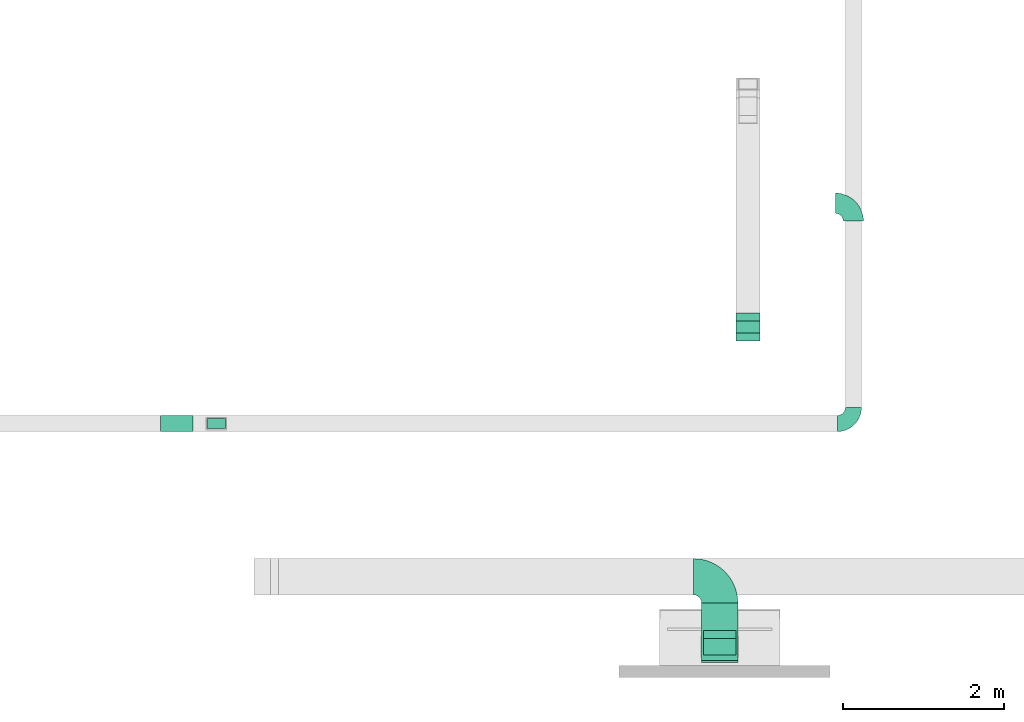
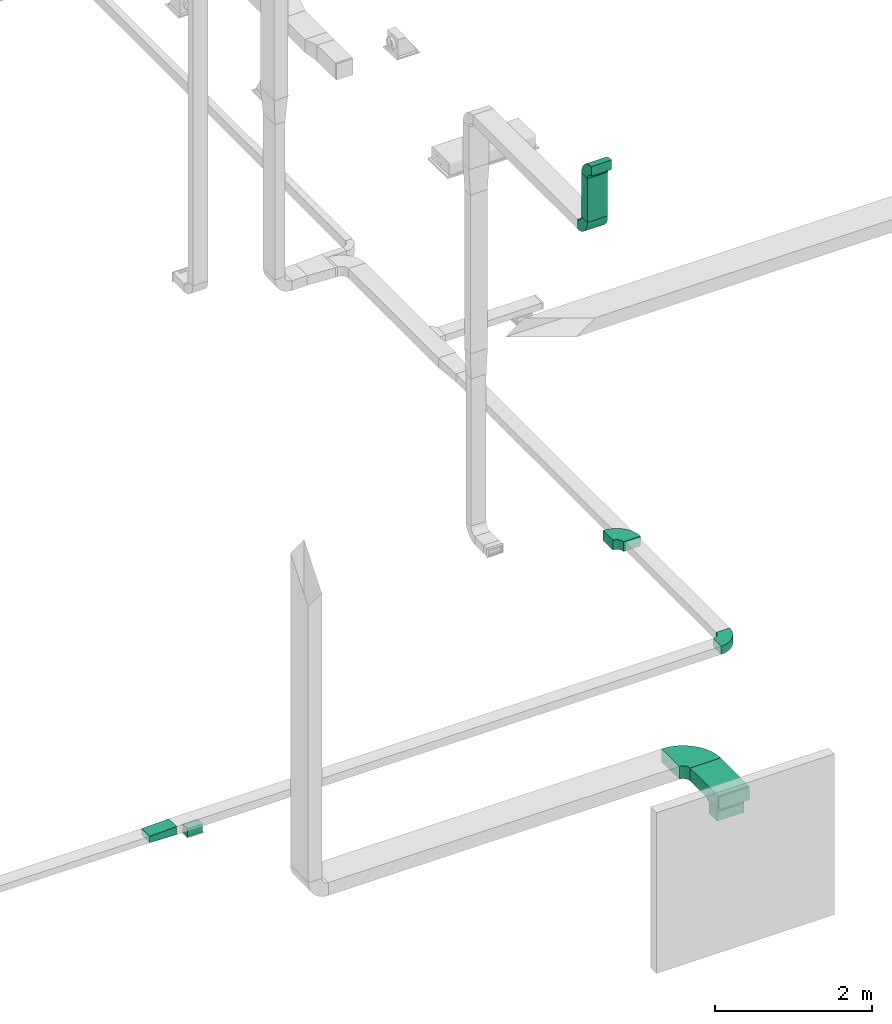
# One storey, part 5 of 22: 9 flow fittings, 4 flow segments.
"""IFC2X3 building model written with IfcOpenShell, lengths in millimetres."""

from ifc_helpers import new_model, entity, si_unit, converted_unit, derived_unit, direction, frame, frame_2d, origin, origin_2d_with_axis, place, context, subcontext, project, spatial, polyline, circle_curve, parameter, trimmed, segment, composite_curve, rectangle, outline, extrude, source, transform, mapped, material, type_object, type_shapes, element, save


model = new_model("IFC2X3")

# Units and contexts
model_context = context("Model", 3, precision=0.01, world=origin(), true_north=direction((6.123233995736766e-17, 1.0)))
body_context = subcontext(model_context, "Body", "Model", "MODEL_VIEW")
ifc_project = project(units=[si_unit("LENGTHUNIT", "METRE", prefix="MILLI"), converted_unit("PLANEANGLEUNIT", "DEGREE", entity("IfcPlaneAngleMeasure", 0.017453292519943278), si_unit("PLANEANGLEUNIT", "RADIAN"), dimensions=[0, 0, 0, 0, 0, 0, 0]), si_unit("AREAUNIT", "SQUARE_METRE"), derived_unit("THERMALTRANSMITTANCEUNIT", [(si_unit("MASSUNIT", "GRAM", prefix="KILO"), 1), (si_unit("THERMODYNAMICTEMPERATUREUNIT", "KELVIN"), -1), (si_unit("TIMEUNIT", "SECOND"), -3)])], contexts=[model_context])

# Site, building, storey
site_placement = place(None, origin())
site = spatial("IfcSite", under=ifc_project, at=site_placement, Name="Default", CompositionType="ELEMENT")
building_placement = place(site_placement, origin())
building = spatial("IfcBuilding", under=site, at=building_placement, Name="Praça Pedro II, 1301 - Centro (Sul), Teresina - PI, 64001-100", CompositionType="ELEMENT")
storey_placement = place(building_placement, frame((0.0, 0.0, 320.0)))
storey = spatial("IfcBuildingStorey", under=building, at=storey_placement, Name="TÉRREO +0.32m", CompositionType="ELEMENT", Elevation=319.99999999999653)

# Flow segments
duct_segment_type = type_object("IfcDuctSegmentType", Name="Duto retangular:Raios cotovelos / torneiras", PredefinedType="NOTDEFINED")
flow_segment_1_placement = place(storey_placement, origin())
element("IfcFlowSegment", 1, at=flow_segment_1_placement, inside=storey, type_object=duct_segment_type, Name="Duto retangular:Raios cotovelos / torneiras", ObjectType="Duto retangular:Raios cotovelos / torneiras", context=body_context, shape_type="SweptSolid", body=[
    extrude(rectangle(XDim=150.00000000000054, YDim=300.0000000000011, at=origin_2d_with_axis()), frame((34186.88553093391, -67588.11640775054, 8578.943296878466), z_axis=(0.0, 0.0, 1.0), x_axis=(0.0, 1.0, 0.0)), (0.0, 0.0, 1.0), 681.0567031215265),
])
flow_segment_2_placement = place(storey_placement, origin())
element("IfcFlowSegment", 2, at=flow_segment_2_placement, inside=storey, type_object=duct_segment_type, Name="Duto retangular:Raios cotovelos / torneiras", ObjectType="Duto retangular:Raios cotovelos / torneiras", context=body_context, shape_type="SweptSolid", body=[
    extrude(rectangle(XDim=125.00000000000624, YDim=225.00000000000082, at=origin_2d_with_axis()), frame((27578.81462838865, -68787.15918292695, 2040.0), z_axis=(0.0, 0.0, 1.0), x_axis=(0.0, 1.0, 0.0)), (0.0, 0.0, 1.0), 121.50000000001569),
])
flow_segment_3_placement = place(storey_placement, origin())
element("IfcFlowSegment", 3, at=flow_segment_3_placement, inside=storey, type_object=duct_segment_type, Name="Duto retangular:Raios cotovelos / torneiras", ObjectType="Duto retangular:Raios cotovelos / torneiras", context=body_context, shape_type="SweptSolid", body=[
    extrude(rectangle(XDim=400.0000000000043, YDim=200.0000000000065, at=frame_2d((-4.334310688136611e-12, 8.668621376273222e-12), x_axis=(1.0, 0.0))), frame((33836.81288258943, -71561.28932437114, 1829.7982312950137), z_axis=(0.0, 0.0, 1.0), x_axis=(-1.0, 0.0, 0.0)), (0.0, 0.0, 1.0), 145.20176870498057),
])
flow_segment_4_placement = place(storey_placement, origin())
element("IfcFlowSegment", 4, at=flow_segment_4_placement, inside=storey, type_object=duct_segment_type, Name="Duto retangular:Raios cotovelos / torneiras", ObjectType="Duto retangular:Raios cotovelos / torneiras", context=body_context, shape_type="SweptSolid", body=[
    extrude(rectangle(XDim=716.7235298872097, YDim=450.00000000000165, at=frame_2d((-8.668621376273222e-12, 0.0), x_axis=(1.0, 0.0))), frame((33836.81288258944, -71374.6510893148, 2075.0), z_axis=(0.0, 0.0, 1.0), x_axis=(0.0, -1.0, 0.0)), (0.0, 0.0, 1.0), 200.0),
])

# Flow fittings
ifc_material = material(Name="<Unnamed>")
duct_fitting_type_1 = type_object("IfcDuctFittingType", Name="M_Rectangular Tap - Beveled:Standard", PredefinedType="NOTDEFINED", material=ifc_material)
shared_shape_1 = source(origin(), body_context, "Body", "SweptSolid", [
    extrude(outline(polyline([(-3.038399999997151, -135.39999999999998), (4.057600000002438, -135.39999999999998), (4.057600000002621, 90.59999999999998), (-2.038399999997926, 90.59999999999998), (-3.0383999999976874, 89.60000000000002), (-3.038399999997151, -135.39999999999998)])), frame((-2.0383999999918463, -22.90000000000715, -62.499999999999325), z_axis=(0.0, 0.0, 1.0), x_axis=(-1.0, 0.0, 0.0)), (0.0, 0.0, 1.0), 124.99999999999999),
])
type_shapes(duct_fitting_type_1, [shared_shape_1])
flow_fitting_1_placement = place(storey_placement, frame((27578.814628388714, -68787.15918292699, 2162.5000000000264), z_axis=(0.0, 1.0, 0.0), x_axis=(0.0, 0.0, -1.0)))
element("IfcFlowFitting", 5, at=flow_fitting_1_placement, inside=storey, type_object=duct_fitting_type_1, material=ifc_material, Name="M_Rectangular Tap - Beveled:Standard", ObjectType="M_Rectangular Tap - Beveled:Standard", context=body_context, shape_type="MappedRepresentation", body=[
    mapped(shared_shape_1, transform((0.0, 0.0, 0.0), scale=1.0)),
])
duct_fitting_type_2 = type_object("IfcDuctFittingType", Name="BTS vanes:1 Splitter Vanes", PredefinedType="NOTDEFINED", material=ifc_material)
shared_shape_2 = source(origin(), body_context, "Body", "SweptSolid", [
    extrude(outline(composite_curve([segment(polyline([(-162.5, -87.49999999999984), (-12.499999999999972, -87.49999999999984)]), True, "CONTINUOUS"), segment(trimmed(circle_curve(frame_2d((87.50000000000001, -87.49999999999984), x_axis=(0.0, 1.0)), 99.99999999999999), [parameter(0.0)], [parameter(90.00000000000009)], True, "PARAMETER"), False, "CONTINUOUS"), segment(polyline([(87.50000000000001, 12.500000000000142), (87.50000000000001, 162.50000000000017)]), True, "CONTINUOUS"), segment(trimmed(circle_curve(frame_2d((87.50000000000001, -87.49999999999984), x_axis=(0.0, 1.0)), 250.00000000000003), [parameter(0.0)], [parameter(90.00000000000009)], True, "PARAMETER"), True, "CONTINUOUS")], self_intersect=False)), frame((-87.4999999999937, 87.49999999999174, -150.0), z_axis=(0.0, 0.0, 1.0), x_axis=(-1.0, 0.0, 0.0)), (0.0, 0.0, 1.0), 300.0),
    extrude(outline(composite_curve([segment(polyline([(-77.63157894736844, -59.21052631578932), (-40.789473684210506, -59.21052631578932)]), True, "CONTINUOUS"), segment(trimmed(circle_curve(frame_2d((59.210526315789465, -59.21052631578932), x_axis=(0.0, 1.0)), 99.99999999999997), [parameter(0.0)], [parameter(90.00000000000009)], True, "PARAMETER"), False, "CONTINUOUS"), segment(polyline([(59.210526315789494, 40.78947368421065), (59.210526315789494, 77.63157894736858)]), True, "CONTINUOUS"), segment(trimmed(circle_curve(frame_2d((59.210526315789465, -59.21052631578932), x_axis=(0.0, 1.0)), 136.8421052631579), [parameter(0.0)], [parameter(90.00000000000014)], True, "PARAMETER"), True, "CONTINUOUS")], self_intersect=False)), frame((-115.78947368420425, 115.78947368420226, -150.0), z_axis=(0.0, 0.0, 1.0), x_axis=(-1.0, 0.0, 0.0)), (0.0, 0.0, 1.0), 300.0),
])
type_shapes(duct_fitting_type_2, [shared_shape_2])
for number, where, z_axis, x_axis, name in (
    (6, (34186.88553093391, -67588.11640775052, 8403.943296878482), (-1.0, 0.0, 0.0), (0.0, -1.0, 0.0), "BTS vanes:1 Splitter Vanes"),
    (7, (34186.88553093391, -67588.11640775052, 9435.0), (1.0, 0.0, 0.0), (0.0, 0.0, 1.0), "BTS vanes:1 Splitter Vanes"),
):
    element("IfcFlowFitting", number, at=place(storey_placement, frame(where, z_axis=z_axis, x_axis=x_axis)), inside=storey, type_object=duct_fitting_type_2, material=ifc_material, Name=name, ObjectType="BTS vanes:1 Splitter Vanes", context=body_context, shape_type="MappedRepresentation", body=[
        mapped(shared_shape_2, transform((0.0, 0.0, 0.0), scale=1.0)),
    ])
duct_fitting_type_3 = type_object("IfcDuctFittingType", Name="M_Rectangular Transition - L:400 mm (L)", PredefinedType="NOTDEFINED", material=ifc_material)
shared_shape_3 = source(origin(), body_context, "Body", "SweptSolid", [
    extrude(outline(polyline([(-198.34067759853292, -56.22255427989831), (201.8545872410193, -56.22255427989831), (197.9502431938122, 68.71645523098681), (-201.4641528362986, 43.728653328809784), (-198.34067759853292, -56.22255427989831)])), frame((200.0, -100.0, 0.0), z_axis=(0.0, 1.0, 0.0), x_axis=(0.9995120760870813, 0.0, 0.03123475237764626)), (0.0, 0.0, 1.0), 199.99999999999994),
])
type_shapes(duct_fitting_type_3, [shared_shape_3])
flow_fitting_2_placement = place(storey_placement, frame((26887.32093422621, -68787.15918292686, 2225.0)))
element("IfcFlowFitting", 8, at=flow_fitting_2_placement, inside=storey, type_object=duct_fitting_type_3, material=ifc_material, Name="M_Rectangular Transition - L:400 mm (L)", ObjectType="M_Rectangular Transition - L:400 mm (L)", context=body_context, shape_type="MappedRepresentation", body=[
    mapped(shared_shape_3, transform((0.0, 0.0, 0.0), scale=1.0)),
])
duct_fitting_type_4 = type_object("IfcDuctFittingType", Name="BTS vanes:1 Splitter Vanes", PredefinedType="NOTDEFINED", material=ifc_material)
shared_shape_4 = source(origin(), body_context, "Body", "SweptSolid", [
    extrude(outline(composite_curve([segment(polyline([(-200.0, -100.0), (0.0, -100.0)]), True, "CONTINUOUS"), segment(trimmed(circle_curve(frame_2d((100.0, -100.0), x_axis=(0.0, 1.0)), 99.99999999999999), [parameter(0.0)], [parameter(90.00000000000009)], True, "PARAMETER"), False, "CONTINUOUS"), segment(polyline([(100.0, 0.0), (100.0, 200.0)]), True, "CONTINUOUS"), segment(trimmed(circle_curve(frame_2d((100.0, -100.0), x_axis=(0.0, 1.0)), 300.0), [parameter(0.0)], [parameter(90.00000000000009)], True, "PARAMETER"), True, "CONTINUOUS")], self_intersect=False)), frame((-100.0, 100.0, -62.500000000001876), z_axis=(0.0, 0.0, 1.0), x_axis=(-1.0, 0.0, 0.0)), (0.0, 0.0, 1.0), 125.00000000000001),
    extrude(outline(composite_curve([segment(polyline([(-77.63157894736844, -59.21052631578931), (-40.789473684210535, -59.21052631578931)]), True, "CONTINUOUS"), segment(trimmed(circle_curve(frame_2d((59.21052631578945, -59.21052631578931), x_axis=(0.0, 1.0)), 99.99999999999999), [parameter(0.0)], [parameter(90.00000000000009)], True, "PARAMETER"), False, "CONTINUOUS"), segment(polyline([(59.21052631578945, 40.78947368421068), (59.21052631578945, 77.63157894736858)]), True, "CONTINUOUS"), segment(trimmed(circle_curve(frame_2d((59.21052631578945, -59.21052631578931), x_axis=(0.0, 1.0)), 136.84210526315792), [parameter(0.0)], [parameter(90.00000000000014)], True, "PARAMETER"), True, "CONTINUOUS")], self_intersect=False)), frame((-140.78947368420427, 140.78947368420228, -62.500000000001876), z_axis=(0.0, 0.0, 1.0), x_axis=(-1.0, 0.0, 0.0)), (0.0, 0.0, 1.0), 125.00000000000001),
])
type_shapes(duct_fitting_type_4, [shared_shape_4])
flow_fitting_3_placement = place(storey_placement, frame((35497.88897367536, -68787.15918292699, 2225.0)))
element("IfcFlowFitting", 9, at=flow_fitting_3_placement, inside=storey, type_object=duct_fitting_type_4, material=ifc_material, Name="BTS vanes:1 Splitter Vanes", ObjectType="BTS vanes:1 Splitter Vanes", context=body_context, shape_type="MappedRepresentation", body=[
    mapped(shared_shape_4, transform((0.0, 0.0, 0.0), scale=1.0)),
])
duct_fitting_type_5 = type_object("IfcDuctFittingType", Name="BTS vanes:1 Splitter Vanes", PredefinedType="NOTDEFINED", material=ifc_material)
shared_shape_5 = source(origin(), body_context, "Body", "SweptSolid", [
    extrude(outline(composite_curve([segment(polyline([(-237.5, -112.49999999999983), (12.5, -112.49999999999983)]), True, "CONTINUOUS"), segment(trimmed(circle_curve(frame_2d((112.5, -112.49999999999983), x_axis=(0.0, 1.0)), 100.0), [parameter(0.0)], [parameter(90.00000000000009)], True, "PARAMETER"), False, "CONTINUOUS"), segment(polyline([(112.5, -12.49999999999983), (112.5, 237.50000000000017)]), True, "CONTINUOUS"), segment(trimmed(circle_curve(frame_2d((112.5, -112.49999999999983), x_axis=(0.0, 1.0)), 350.0), [parameter(0.0)], [parameter(90.00000000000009)], True, "PARAMETER"), True, "CONTINUOUS")], self_intersect=False)), frame((-112.49999999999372, 112.49999999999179, -75.0), z_axis=(0.0, 0.0, 1.0), x_axis=(-1.0, 0.0, 0.0)), (0.0, 0.0, 1.0), 150.0),
    extrude(outline(composite_curve([segment(polyline([(-77.63157894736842, -59.21052631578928), (-40.78947368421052, -59.21052631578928)]), True, "CONTINUOUS"), segment(trimmed(circle_curve(frame_2d((59.21052631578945, -59.21052631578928), x_axis=(0.0, 1.0)), 99.99999999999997), [parameter(0.0)], [parameter(90.00000000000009)], True, "PARAMETER"), False, "CONTINUOUS"), segment(polyline([(59.21052631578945, 40.78947368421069), (59.21052631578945, 77.6315789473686)]), True, "CONTINUOUS"), segment(trimmed(circle_curve(frame_2d((59.21052631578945, -59.21052631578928), x_axis=(0.0, 1.0)), 136.8421052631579), [parameter(0.0)], [parameter(90.00000000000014)], True, "PARAMETER"), True, "CONTINUOUS")], self_intersect=False)), frame((-165.78947368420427, 165.78947368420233, -75.0), z_axis=(0.0, 0.0, 1.0), x_axis=(-1.0, 0.0, 0.0)), (0.0, 0.0, 1.0), 150.0),
])
type_shapes(duct_fitting_type_5, [shared_shape_5])
flow_fitting_4_placement = place(storey_placement, frame((35497.88897367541, -66047.15114948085, 2225.0), z_axis=(0.0, 0.0, 1.0), x_axis=(0.0, 1.0, 0.0)))
element("IfcFlowFitting", 10, at=flow_fitting_4_placement, inside=storey, type_object=duct_fitting_type_5, material=ifc_material, Name="BTS vanes:1 Splitter Vanes", ObjectType="BTS vanes:1 Splitter Vanes", context=body_context, shape_type="MappedRepresentation", body=[
    mapped(shared_shape_5, transform((0.0, 0.0, 0.0), scale=1.0)),
])
duct_fitting_type_6 = type_object("IfcDuctFittingType", Name="M_Rectangular Tap - Beveled:Standard", PredefinedType="NOTDEFINED", material=ifc_material)
shared_shape_6 = source(origin(), body_context, "Body", "SweptSolid", [
    extrude(outline(polyline([(-160.0, -62.438399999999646), (40.0, -62.438399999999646), (140.0, 37.56159999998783), (140.0, 43.65760000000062), (-160.0, 43.657599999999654), (-160.0, -62.438399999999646)])), frame((37.561600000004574, 60.0, -200.0), z_axis=(0.0, 0.0, 1.0), x_axis=(0.0, 1.0, 0.0)), (0.0, 0.0, 1.0), 399.99999999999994),
])
type_shapes(duct_fitting_type_6, [shared_shape_6])
flow_fitting_5_placement = place(storey_placement, frame((33836.81288258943, -71561.28932437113, 2075.0), z_axis=(1.0, 0.0, 0.0), x_axis=(0.0, 0.0, -1.0)))
element("IfcFlowFitting", 11, at=flow_fitting_5_placement, inside=storey, type_object=duct_fitting_type_6, material=ifc_material, Name="M_Rectangular Tap - Beveled:Standard", ObjectType="M_Rectangular Tap - Beveled:Standard", context=body_context, shape_type="MappedRepresentation", body=[
    mapped(shared_shape_6, transform((0.0, 0.0, 0.0), scale=1.0)),
])
duct_fitting_type_7 = type_object("IfcDuctFittingType", Name="M_Tampa retangular:Padrão", PredefinedType="NOTDEFINED", material=ifc_material)
shared_shape_7 = source(origin(), body_context, "Body", "SweptSolid", [
    extrude(rectangle(XDim=24.999999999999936, YDim=450.00000000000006, at=origin_2d_with_axis()), frame((12.500000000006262, 0.0, -100.0)), (0.0, 0.0, 1.0), 199.99999999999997),
])
type_shapes(duct_fitting_type_7, [shared_shape_7])
flow_fitting_6_placement = place(storey_placement, frame((33836.81288258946, -71733.01285425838, 2175.0), z_axis=(0.0, 0.0, 1.0), x_axis=(0.0, -1.0, 0.0)))
element("IfcFlowFitting", 12, at=flow_fitting_6_placement, inside=storey, type_object=duct_fitting_type_7, material=ifc_material, Name="M_Tampa retangular:Padrão", ObjectType="M_Tampa retangular:Padrão", context=body_context, shape_type="MappedRepresentation", body=[
    mapped(shared_shape_7, transform((0.0, 0.0, 0.0), scale=1.0)),
])
duct_fitting_type_8 = type_object("IfcDuctFittingType", Name="BTS vanes:1 Splitter Vanes", PredefinedType="NOTDEFINED", material=ifc_material)
shared_shape_8 = source(origin(), body_context, "Body", "SweptSolid", [
    extrude(outline(composite_curve([segment(polyline([(-387.5, -162.49999999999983), (62.5, -162.49999999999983)]), True, "CONTINUOUS"), segment(trimmed(circle_curve(frame_2d((162.49999999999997, -162.49999999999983), x_axis=(0.0, 1.0)), 99.99999999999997), [parameter(0.0)], [parameter(90.00000000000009)], True, "PARAMETER"), False, "CONTINUOUS"), segment(polyline([(162.49999999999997, -62.49999999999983), (162.49999999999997, 387.5000000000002)]), True, "CONTINUOUS"), segment(trimmed(circle_curve(frame_2d((162.49999999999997, -162.49999999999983), x_axis=(0.0, 1.0)), 550.0), [parameter(0.0)], [parameter(90.00000000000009)], True, "PARAMETER"), True, "CONTINUOUS")], self_intersect=False)), frame((-162.49999999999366, 162.49999999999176, -100.0), z_axis=(0.0, 0.0, 1.0), x_axis=(-1.0, 0.0, 0.0)), (0.0, 0.0, 1.0), 200.0),
    extrude(outline(composite_curve([segment(polyline([(-77.63157894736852, -59.210526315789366), (-40.789473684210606, -59.210526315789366)]), True, "CONTINUOUS"), segment(trimmed(circle_curve(frame_2d((59.21052631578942, -59.210526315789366), x_axis=(0.0, 1.0)), 100.00000000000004), [parameter(0.0)], [parameter(90.00000000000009)], True, "PARAMETER"), False, "CONTINUOUS"), segment(polyline([(59.21052631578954, 40.78947368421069), (59.21052631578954, 77.63157894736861)]), True, "CONTINUOUS"), segment(trimmed(circle_curve(frame_2d((59.21052631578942, -59.210526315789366), x_axis=(0.0, 1.0)), 136.84210526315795), [parameter(0.0)], [parameter(90.00000000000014)], True, "PARAMETER"), True, "CONTINUOUS")], self_intersect=False)), frame((-265.7894736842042, 265.7894736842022, -100.0), z_axis=(0.0, 0.0, 1.0), x_axis=(-1.0, 0.0, 0.0)), (0.0, 0.0, 1.0), 200.0),
])
type_shapes(duct_fitting_type_8, [shared_shape_8])
flow_fitting_7_placement = place(storey_placement, frame((33836.812882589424, -70691.28932437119, 2175.0), z_axis=(0.0, 0.0, 1.0), x_axis=(0.0, 1.0, 0.0)))
element("IfcFlowFitting", 13, at=flow_fitting_7_placement, inside=storey, type_object=duct_fitting_type_8, material=ifc_material, Name="BTS vanes:1 Splitter Vanes", ObjectType="BTS vanes:1 Splitter Vanes", context=body_context, shape_type="MappedRepresentation", body=[
    mapped(shared_shape_8, transform((0.0, 0.0, 0.0), scale=1.0)),
])

save(model, "model.ifc")
